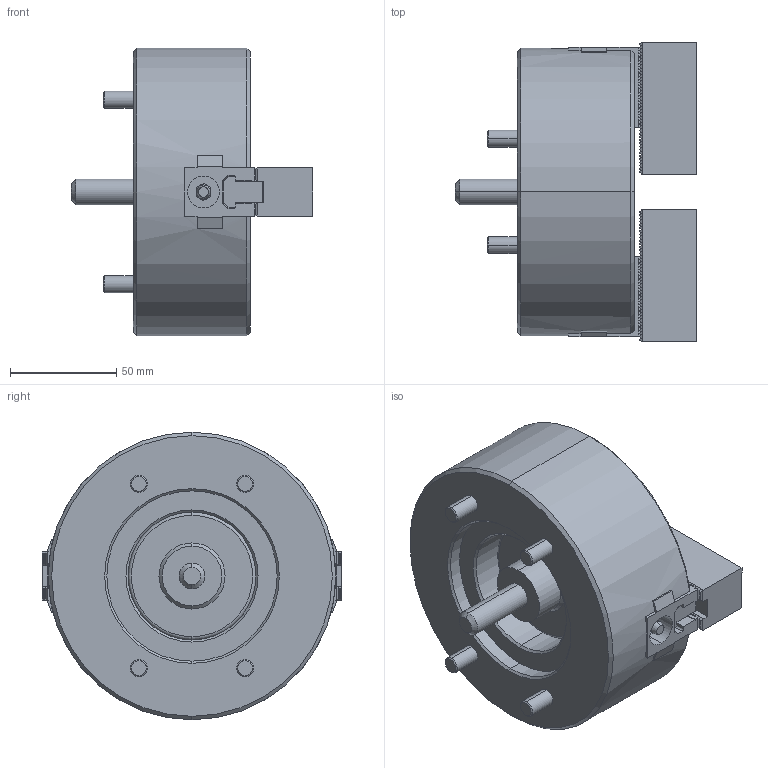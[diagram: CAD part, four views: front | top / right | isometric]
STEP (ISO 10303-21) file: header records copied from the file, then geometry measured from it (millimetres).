
FILE_DESCRIPTION (( 'STEP AP214' ), '1' );
FILE_NAME ('NT05_UC.STEP', '2019-12-19T06:42:23', ( '' ), ( '' ), 'SwSTEP 2.0', 'SolidWorks 2017', '' );
FILE_SCHEMA (( 'AUTOMOTIVE_DESIGN' ));
Length unit declared in the file: millimetre
Products named in the file (5): 結合; 0030108022; 61P400839_俿僫僢僩; 61P315771_ソフトジョー; NT05_UC
Assembly tree (9 placements, depth 2):
  NT05_UC
    61P315771_ソフトジョー  x2
    61P400839_俿僫僢僩  x2
    0030108022  x4
    結合
Bounding box: 113.2 x 140.8 x 135 mm (x, y, z)
Volume: 790257.6 mm3; surface area: 98863.7 mm2
Topology: 9 solids, 9 shells, 1633 faces, 4526 edges, 2939 vertices
Faces by surface type: plane 1338, cylinder 146, cone 113, torus 36
Entity records: 40014 total; most frequent: CARTESIAN_POINT 7778, ORIENTED_EDGE 6886, DIRECTION 6260, EDGE_CURVE 3443, VECTOR 2952, LINE 2952, VERTEX_POINT 2244, AXIS2_PLACEMENT_3D 1654
